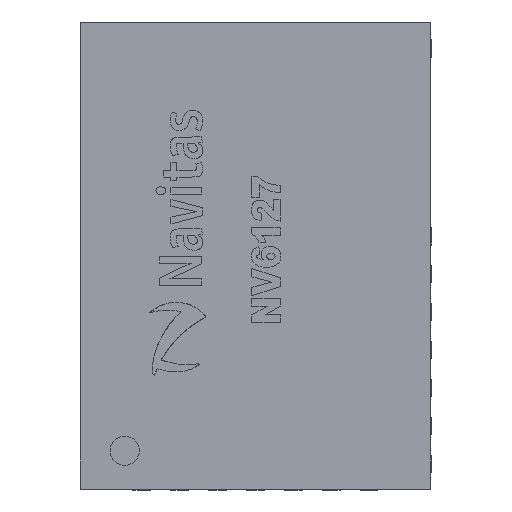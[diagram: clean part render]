
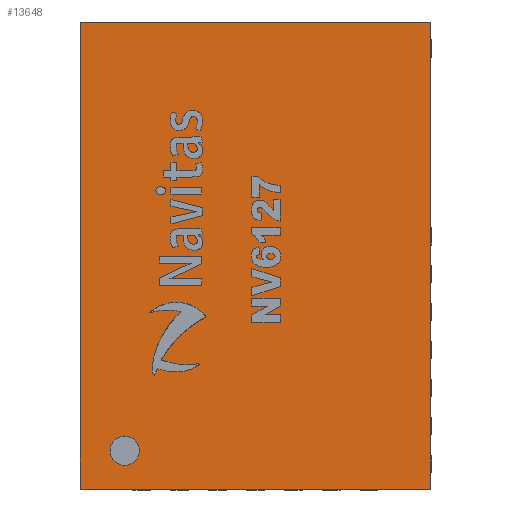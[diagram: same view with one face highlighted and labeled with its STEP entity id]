
A CAD part, top view. The second image highlights one B-rep face of the part: STEP entity #13648.
In plain terms, the highlighted planar face has unit normal (0, 0, 1).
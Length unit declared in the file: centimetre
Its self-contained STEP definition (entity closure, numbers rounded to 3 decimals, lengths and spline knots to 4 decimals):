
#1585=FACE_OUTER_BOUND($,#2394,.T.);
#2394=EDGE_LOOP($,(#9057,#9058,#9059,#9060));
#3215=LINE($,#16631,#4349);
#3216=LINE($,#16633,#4350);
#3217=LINE($,#16635,#4351);
#3218=LINE($,#16636,#4352);
#4349=VECTOR($,#14874,0.6);
#4350=VECTOR($,#14875,0.8);
#4351=VECTOR($,#14876,0.6);
#4352=VECTOR($,#14877,0.8);
#5483=VERTEX_POINT($,#16629);
#5484=VERTEX_POINT($,#16630);
#5485=VERTEX_POINT($,#16632);
#5486=VERTEX_POINT($,#16634);
#6913=EDGE_CURVE($,#5483,#5484,#3215,.T.);
#6914=EDGE_CURVE($,#5484,#5485,#3216,.T.);
#6915=EDGE_CURVE($,#5485,#5486,#3217,.T.);
#6916=EDGE_CURVE($,#5486,#5483,#3218,.T.);
#9057=ORIENTED_EDGE($,*,*,#6913,.T.);
#9058=ORIENTED_EDGE($,*,*,#6914,.T.);
#9059=ORIENTED_EDGE($,*,*,#6915,.T.);
#9060=ORIENTED_EDGE($,*,*,#6916,.T.);
#13342=PLANE($,#14556);
#13648=ADVANCED_FACE($,(#1585),#13342,.F.);
#14556=AXIS2_PLACEMENT_3D($,#16628,#14872,#14873);
#14872=DIRECTION('center_axis',(0.,0.,-1.));
#14873=DIRECTION('ref_axis',(0.,-1.,0.));
#14874=DIRECTION($,(1.,0.,0.));
#14875=DIRECTION($,(0.,1.,0.));
#14876=DIRECTION($,(-1.,0.,0.));
#14877=DIRECTION($,(0.,-1.,0.));
#16628=CARTESIAN_POINT('Origin',(-0.306,0.4051,0.095));
#16629=CARTESIAN_POINT('',(-0.606,0.0051,0.095));
#16630=CARTESIAN_POINT('',(-0.006,0.0051,0.095));
#16631=CARTESIAN_POINT($,(-0.306,0.0051,0.095));
#16632=CARTESIAN_POINT('',(-0.006,0.8051,0.095));
#16633=CARTESIAN_POINT($,(-0.006,0.4051,0.095));
#16634=CARTESIAN_POINT('',(-0.606,0.8051,0.095));
#16635=CARTESIAN_POINT($,(-0.306,0.8051,0.095));
#16636=CARTESIAN_POINT($,(-0.606,0.4051,0.095));
